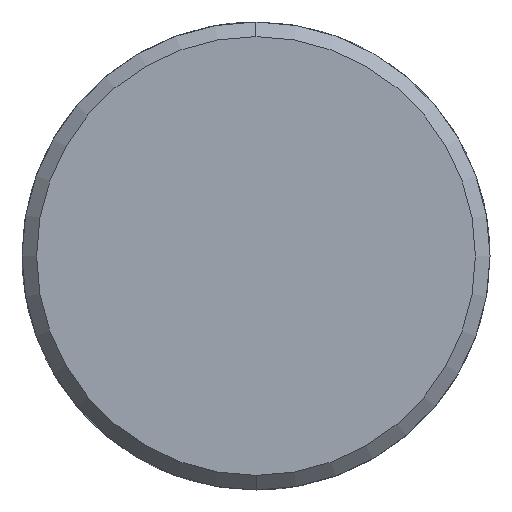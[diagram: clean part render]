
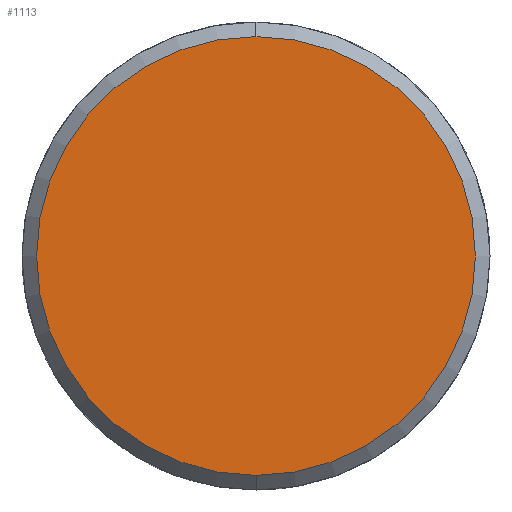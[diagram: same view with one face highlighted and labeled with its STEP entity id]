
A CAD part, left-side view. The second image highlights one B-rep face of the part: STEP entity #1113.
In plain terms, the highlighted planar face has unit normal (-1, 0, 0).
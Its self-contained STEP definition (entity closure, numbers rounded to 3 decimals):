
#1045=CARTESIAN_POINT('Vertex',(-6.,0.,-15.)) ;
#1048=CARTESIAN_POINT('Axis2P3D Location',(-6.,0.,0.)) ;
#1052=CARTESIAN_POINT('Vertex',(-6.,15.,0.)) ;
#1055=CARTESIAN_POINT('Axis2P3D Location',(-6.,0.,0.)) ;
#1059=CARTESIAN_POINT('Vertex',(-6.,0.,15.)) ;
#1081=CARTESIAN_POINT('Axis2P3D Location',(-6.,0.,0.)) ;
#1085=CARTESIAN_POINT('Vertex',(-6.,-15.,0.)) ;
#1088=CARTESIAN_POINT('Axis2P3D Location',(-6.,0.,0.)) ;
#1102=CARTESIAN_POINT('Axis2P3D Location',(-6.,0.,0.)) ;
#1049=DIRECTION('Axis2P3D Direction',(1.,0.,-0.)) ;
#1056=DIRECTION('Axis2P3D Direction',(1.,0.,-0.)) ;
#1082=DIRECTION('Axis2P3D Direction',(1.,0.,-0.)) ;
#1089=DIRECTION('Axis2P3D Direction',(1.,0.,-0.)) ;
#1103=DIRECTION('Axis2P3D Direction',(1.,0.,-0.)) ;
#1104=DIRECTION('Axis2P3D XDirection',(-0.,0.,-1.)) ;
#1050=AXIS2_PLACEMENT_3D('Circle Axis2P3D',#1048,#1049,$) ;
#1057=AXIS2_PLACEMENT_3D('Circle Axis2P3D',#1055,#1056,$) ;
#1083=AXIS2_PLACEMENT_3D('Circle Axis2P3D',#1081,#1082,$) ;
#1090=AXIS2_PLACEMENT_3D('Circle Axis2P3D',#1088,#1089,$) ;
#1105=AXIS2_PLACEMENT_3D('Plane Axis2P3D',#1102,#1103,#1104) ;
#1108=ORIENTED_EDGE('',*,*,#1054,.F.) ;
#1109=ORIENTED_EDGE('',*,*,#1092,.F.) ;
#1110=ORIENTED_EDGE('',*,*,#1087,.F.) ;
#1111=ORIENTED_EDGE('',*,*,#1061,.F.) ;
#1113=ADVANCED_FACE('351-20X46X80',(#1112),#1106,.F.) ;
#1051=CIRCLE('generated circle',#1050,15.) ;
#1058=CIRCLE('generated circle',#1057,15.) ;
#1084=CIRCLE('generated circle',#1083,15.) ;
#1091=CIRCLE('generated circle',#1090,15.) ;
#1054=EDGE_CURVE('',#1046,#1053,#1051,.T.) ;
#1061=EDGE_CURVE('',#1053,#1060,#1058,.T.) ;
#1087=EDGE_CURVE('',#1060,#1086,#1084,.T.) ;
#1092=EDGE_CURVE('',#1086,#1046,#1091,.T.) ;
#1107=EDGE_LOOP('',(#1108,#1109,#1110,#1111)) ;
#1112=FACE_OUTER_BOUND('',#1107,.T.) ;
#1106=PLANE('Plane',#1105) ;
#1046=VERTEX_POINT('',#1045) ;
#1053=VERTEX_POINT('',#1052) ;
#1060=VERTEX_POINT('',#1059) ;
#1086=VERTEX_POINT('',#1085) ;
